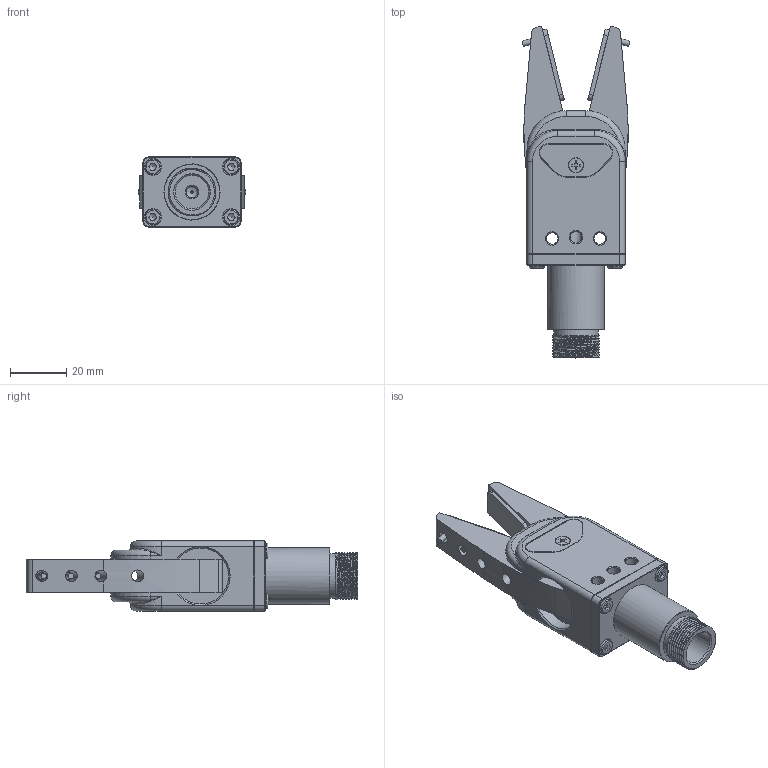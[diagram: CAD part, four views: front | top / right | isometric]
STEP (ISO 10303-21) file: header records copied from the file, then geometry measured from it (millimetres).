
FILE_DESCRIPTION(/* description */ (''),/* implementation_level */ '2;1');
FILE_NAME(/* name */ '_model1.stp',/* time_stamp */ '2023-03-08T16:02:06+08:00',/* author */ (''),/* organization */ (''),/* preprocessor_version */ 'ST-DEVELOPER v16',/* originating_system */ 'SIEMENS PLM Software NX 10.0',/* authorisation */ '');
FILE_SCHEMA (('AUTOMOTIVE_DESIGN { 1 0 10303 214 3 1 1 1 }'));
Length unit declared in the file: millimetre
Products named in the file (1): Admi115498B06jbu
Bounding box: 38.46 x 118.39 x 25 mm (x, y, z)
Volume: 52200.5 mm3; surface area: 19946.2 mm2
Topology: 1 solids, 20 shells, 553 faces, 1283 edges, 802 vertices
Faces by surface type: plane 235, cylinder 161, cone 104, bspline 25, torus 22, sphere 6
Full cylindrical faces by diameter (mm): 0.8 x1, 2 x12, 2.5 x4, 3 x28, 3.2 x1, 3.4 x4, 3.541 x4, 4 x10, 4.2 x8, 5 x4, 5.2 x1, 5.5 x4, 6 x4, 7.8 x2, 12 x1, 15.8 x1, 20 x1
Entity records: 18656 total; most frequent: CARTESIAN_POINT 7314, DIRECTION 2414, ORIENTED_EDGE 1984, EDGE_CURVE 992, AXIS2_PLACEMENT_3D 987, EDGE_LOOP 823, VERTEX_POINT 723, ADVANCED_FACE 550
